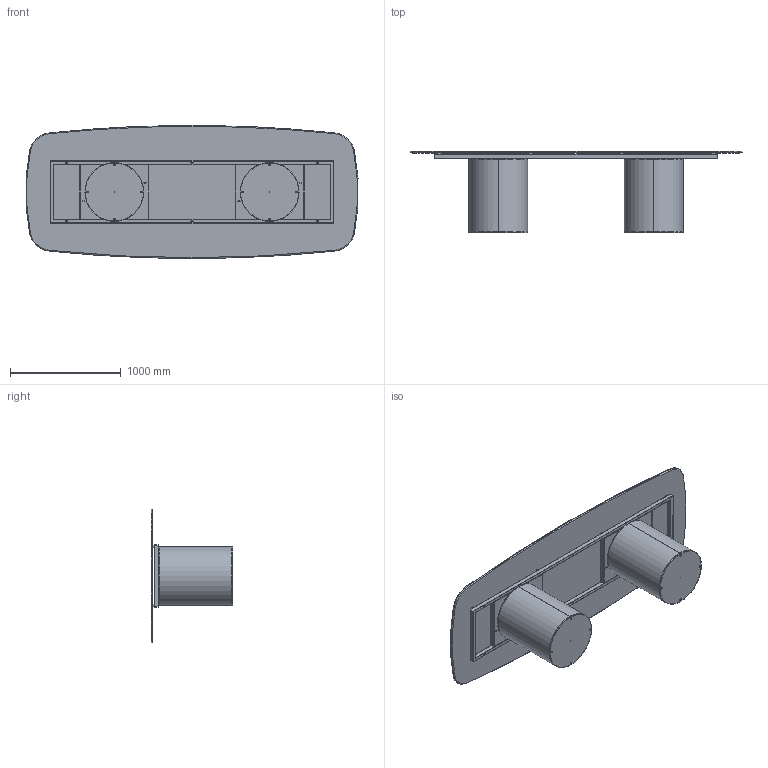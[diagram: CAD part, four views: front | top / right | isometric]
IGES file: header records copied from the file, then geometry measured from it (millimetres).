
Start section: SolidWorks IGES file using analytic representation for surfaces
Global section: file name: Y:\eforma\TECNICO\SOLIDWORKS\E-FORMA\1-TAVOLI\CILINDRO\02 parts\CI44C.IGS; native system: SolidWorks 2022; preprocessor: SolidWorks 2022; author: eforma.tech; date: 240808.091145; units: millimetre
Bounding box: 2991.72 x 736 x 1200 mm (x, y, z)
Volume: 68133208.9 mm3; surface area: 22587501.5 mm2
Topology: 39 solids, 39 shells, 995 faces, 2265 edges, 1306 vertices
Faces by surface type: revolution 551, plane 444
